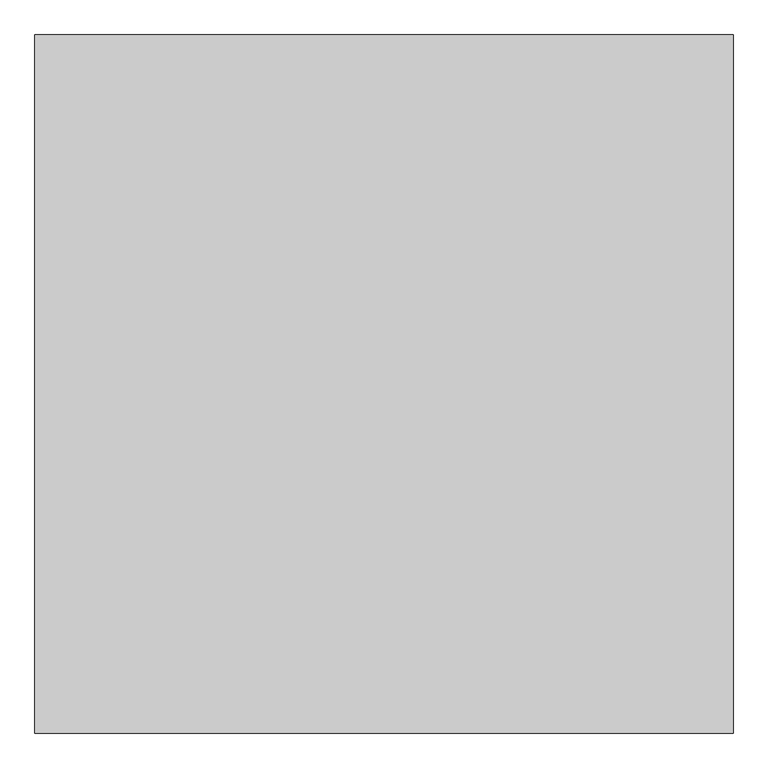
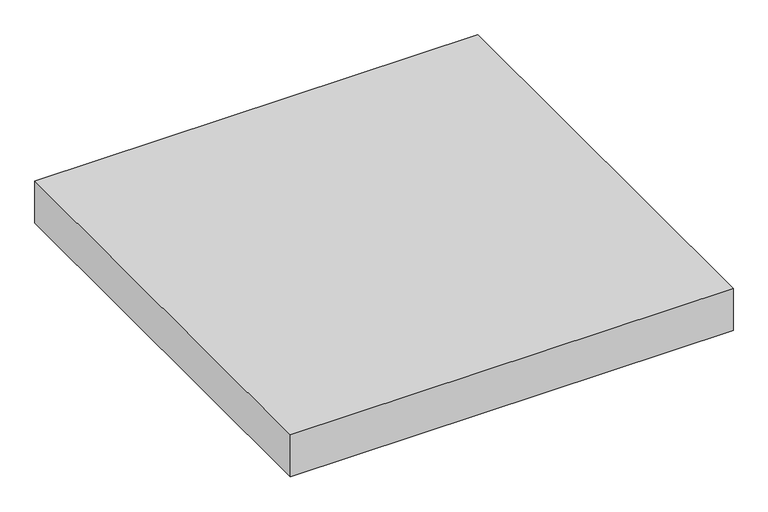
"""IFC4 building model written with IfcOpenShell, lengths in millimetres: proxy geometry, Modelos genéricos 20 : Modelos genéricos 1."""

import ifcopenshell
import ifcopenshell.guid

model = None  # the IFC model being written
_history = None  # IfcOwnerHistory: only IFC2X3 demands one
_inside = {}  # id of a spatial element -> (the spatial element, [elements in it])
_under = {}  # id of a project, library or spatial element -> (it, [spatial elements below it])
_declared = {}  # id of a project -> (the project, [libraries it declares])
_typed = {}  # id of a type object -> (the type object, [elements of that type])
_made_of = {}  # id of a material, layer set ... -> (it, [elements and type objects made of it])


def new_model(schema):
    """Start an empty IFC model of exactly this schema.

    Asked for "IFC4X3", IfcOpenShell would pick the latest addendum, in which some entities
    have other attributes; the version numbers below select the first issue.
    IFC2X3 requires an IfcOwnerHistory on every rooted entity: one is made here for all.
    """
    global model, _history
    if schema == "IFC4X3":
        model = ifcopenshell.file(schema_version=(4, 3, 0, 0))
    else:
        model = ifcopenshell.file(schema=schema)
    _inside.clear()
    _under.clear()
    _declared.clear()
    _typed.clear()
    _made_of.clear()
    _history = None
    if model.schema == "IFC2X3":
        org = make("IfcOrganization", Name="unknown")
        user = make(
            "IfcPersonAndOrganization",
            ThePerson=make("IfcPerson", FamilyName="unknown"),
            TheOrganization=org,
        )
        app = make(
            "IfcApplication",
            ApplicationDeveloper=org,
            Version="unknown",
            ApplicationFullName="unknown",
            ApplicationIdentifier="unknown",
        )
        _history = make(
            "IfcOwnerHistory",
            OwningUser=user,
            OwningApplication=app,
            ChangeAction="ADDED",
            CreationDate=0,
        )
    return model


def make(cls, **values):
    """One entity of the class cls with the attributes given. An attribute that is None is left unset."""
    return model.create_entity(
        cls, **{name: value for name, value in values.items() if value is not None}
    )


def rooted(cls, **values):
    """An entity with a GlobalId (a new one), such as an element, a storey or a relation."""
    return make(cls, GlobalId=ifcopenshell.guid.new(), OwnerHistory=_history, **values)


def si_unit(unit_type, name, prefix=None):
    """IfcSIUnit, for example si_unit("LENGTHUNIT", "METRE", prefix="MILLI")."""
    return make("IfcSIUnit", UnitType=unit_type, Prefix=prefix, Name=name)


def assignment(units):
    """IfcUnitAssignment: the units of a project."""
    return None if units is None else make("IfcUnitAssignment", Units=units)


def point(xyz):
    """IfcCartesianPoint."""
    return None if xyz is None else make("IfcCartesianPoint", Coordinates=xyz)


def direction(xyz):
    """IfcDirection."""
    return None if xyz is None else make("IfcDirection", DirectionRatios=xyz)


def frame(location, z_axis=None, x_axis=None):
    """IfcAxis2Placement3D, a coordinate frame: its origin and axes. An axis left out is left unset."""
    return make(
        "IfcAxis2Placement3D",
        Location=point(location),
        Axis=direction(z_axis),
        RefDirection=direction(x_axis),
    )


def origin():
    """The frame at (0, 0, 0) with its axes left unset."""
    return frame((0.0, 0.0, 0.0))


def origin_with_axes():
    """The frame at (0, 0, 0) with the z axis (0, 0, 1) and the x axis (1, 0, 0) written out."""
    return frame((0.0, 0.0, 0.0), z_axis=(0.0, 0.0, 1.0), x_axis=(1.0, 0.0, 0.0))


def place(relative_to, where):
    """IfcLocalPlacement: puts the frame where relative to a parent placement (None: the world)."""
    return make(
        "IfcLocalPlacement", PlacementRelTo=relative_to, RelativePlacement=where
    )


def context(
    kind, dimensions, precision=None, world=None, true_north=None, identifier=None
):
    """IfcGeometricRepresentationContext, for example the 3D "Model" context."""
    return make(
        "IfcGeometricRepresentationContext",
        ContextIdentifier=identifier,
        ContextType=kind,
        CoordinateSpaceDimension=dimensions,
        Precision=precision,
        WorldCoordinateSystem=world,
        TrueNorth=true_north,
    )


def project(units=None, contexts=None):
    """IfcProject with its units and contexts."""
    return rooted(
        "IfcProject",
        Name="project",
        RepresentationContexts=contexts,
        UnitsInContext=assignment(units),
    )


def spatial(cls, under=None, at=None, **own):
    """A site, building, storey or space (cls), placed at a placement, below another one or the project."""
    s = rooted(cls, ObjectPlacement=at, **own)
    if under is not None:
        _under.setdefault(under.id(), (under, []))[1].append(s)
    return s


def polyline(points):
    """IfcPolyline through the points."""
    return make("IfcPolyline", Points=[point(p) for p in points])


def outline(outer, holes=None, kind="AREA"):
    """IfcArbitraryClosedProfileDef: a profile drawn as a closed curve; with holes, ...WithVoids."""
    if holes is None:
        return make("IfcArbitraryClosedProfileDef", ProfileType=kind, OuterCurve=outer)
    return make(
        "IfcArbitraryProfileDefWithVoids",
        ProfileType=kind,
        OuterCurve=outer,
        InnerCurves=holes,
    )


def extrude(swept, where, along, depth):
    """IfcExtrudedAreaSolid: the profile swept, set in the frame where, extruded along a direction by depth."""
    return make(
        "IfcExtrudedAreaSolid",
        SweptArea=swept,
        Position=where,
        ExtrudedDirection=direction(along),
        Depth=depth,
    )


def shape(context_of_items, identifier, shape_type, items):
    """IfcShapeRepresentation: the items that make up one representation, for example the "Body"."""
    return make(
        "IfcShapeRepresentation",
        ContextOfItems=context_of_items,
        RepresentationIdentifier=identifier,
        RepresentationType=shape_type,
        Items=items,
    )


def source(mapping_origin, context_of_items, identifier, shape_type, items):
    """IfcRepresentationMap: a shape defined once, which mapped items show again and again."""
    return make(
        "IfcRepresentationMap",
        MappingOrigin=mapping_origin,
        MappedRepresentation=shape(context_of_items, identifier, shape_type, items),
    )


def transform(
    local_origin,
    x_axis=None,
    y_axis=None,
    z_axis=None,
    scale=None,
    scale2=None,
    scale3=None,
    uniform=True,
):
    """IfcCartesianTransformationOperator3D, or its non-uniform kind. x_axis, y_axis, z_axis: its Axis1, 2, 3."""
    if uniform:
        return make(
            "IfcCartesianTransformationOperator3D",
            Axis1=direction(x_axis),
            Axis2=direction(y_axis),
            LocalOrigin=point(local_origin),
            Scale=scale,
            Axis3=direction(z_axis),
        )
    return make(
        "IfcCartesianTransformationOperator3DnonUniform",
        Axis1=direction(x_axis),
        Axis2=direction(y_axis),
        LocalOrigin=point(local_origin),
        Scale=scale,
        Axis3=direction(z_axis),
        Scale2=scale2,
        Scale3=scale3,
    )


def mapped(mapping_source, mapping_target):
    """IfcMappedItem: shows the shape of a source again, moved by a transform."""
    return make(
        "IfcMappedItem", MappingSource=mapping_source, MappingTarget=mapping_target
    )


def made_of(thing, what):
    """Note that an element or type object is made of a material, layer set ...; save() writes the relation."""
    if what is not None:
        _made_of.setdefault(what.id(), (what, []))[1].append(thing)
    return thing


def element(
    cls,
    number,
    at=None,
    inside=None,
    cuts=None,
    type_object=None,
    material=None,
    context=None,
    identifier="Body",
    shape_type=None,
    held_by="IfcProductDefinitionShape",
    body=None,
    shapes=None,
    **own,
):
    """One element of the class cls, such as IfcWall. Its Tag is "e" and its number.

    at: its placement. inside: the storey or other place that contains it. cuts: it is an
    opening in that element (IfcRelVoidsElement). A single representation is given by context,
    identifier, shape_type and body (its items); several are given by shapes. held_by: the class
    of the entity that holds the representations. save() writes the other relations.
    """
    e = rooted(cls, Tag="e%d" % number, ObjectPlacement=at, **own)
    if body is not None:
        shapes = [shape(context, identifier, shape_type, body)]
    if shapes is not None:
        e.Representation = make(held_by, Representations=shapes)
    if inside is not None:
        _inside.setdefault(inside.id(), (inside, []))[1].append(e)
    if cuts is not None:
        rooted(
            "IfcRelVoidsElement", RelatingBuildingElement=cuts, RelatedOpeningElement=e
        )
    if type_object is not None:
        _typed.setdefault(type_object.id(), (type_object, []))[1].append(e)
    return made_of(e, material)


def aggregate(whole, parts):
    """IfcRelAggregates: a whole, such as a stair, and the parts it consists of."""
    return rooted("IfcRelAggregates", RelatingObject=whole, RelatedObjects=parts)


def save(model, path):
    """Write the relations noted so far, then the file.

    IfcRelAggregates (storeys below a building ...), IfcRelContainedInSpatialStructure (elements
    in a storey), IfcRelDefinesByType, IfcRelAssociatesMaterial and IfcRelDeclares: one each for
    every whole, place, type object, material and project.
    """
    for whole, parts in _under.values():
        aggregate(whole, parts)
    for where, things in _inside.values():
        rooted(
            "IfcRelContainedInSpatialStructure",
            RelatedElements=things,
            RelatingStructure=where,
        )
    for kind, things in _typed.values():
        rooted("IfcRelDefinesByType", RelatedObjects=things, RelatingType=kind)
    for what, things in _made_of.values():
        rooted("IfcRelAssociatesMaterial", RelatedObjects=things, RelatingMaterial=what)
    for by, libraries in _declared.values():
        rooted("IfcRelDeclares", RelatingContext=by, RelatedDefinitions=libraries)
    model.write(path)


def generic_models_7087feed(model_context):
    return source(origin(), model_context, "Body", "SweptSolid", [
        extrude(outline(polyline([(-3422.6026359, -8545.712814), (-3422.6026359, -10045.712814), (-4922.6026359, -10045.712814), (-4922.6026359, -8545.712814), (-3422.6026359, -8545.712814)])), origin_with_axes(), (0.0, 0.0, 1.0), 150.0),
    ])


if __name__ == "__main__":
    model = new_model("IFC4")
    model_context = context("Model", 3, world=origin())
    ifc_project = project(units=[si_unit("LENGTHUNIT", "METRE", prefix="MILLI")], contexts=[model_context])
    site = spatial("IfcSite", under=ifc_project)
    building = spatial("IfcBuilding", under=site)
    placement = place(None, origin())
    generic_models_shape = generic_models_7087feed(model_context)
    element("IfcBuildingElementProxy", 1, Name="Modelos genéricos 20 : Modelos genéricos 1", ObjectType="Modelos genéricos 20 : Modelos genéricos 1", at=placement, inside=building, context=model_context, shape_type="MappedRepresentation", body=[
        mapped(generic_models_shape, transform((0.0, 0.0, 0.0), x_axis=(1.0, 0.0, 0.0), y_axis=(0.0, 1.0, 0.0), z_axis=(0.0, 0.0, 1.0))),
    ])
    save(model, "model.ifc")
